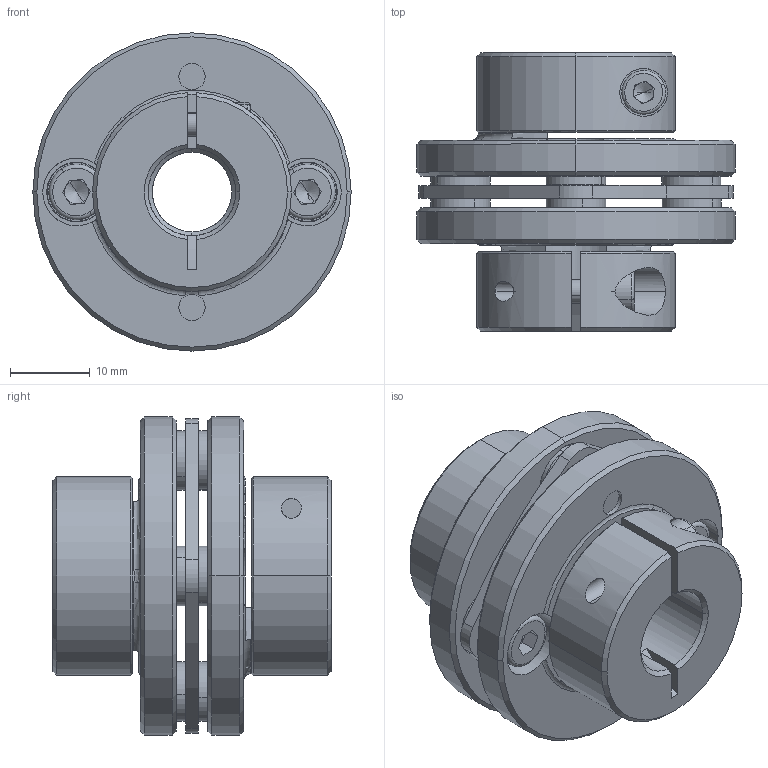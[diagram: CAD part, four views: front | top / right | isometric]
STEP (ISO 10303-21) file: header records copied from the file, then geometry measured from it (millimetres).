
FILE_DESCRIPTION (( 'STEP AP203' ), '1' );
FILE_NAME ('LE1-B-D40L35-10-11.STEP', '2021-11-01T02:10:24', ( '' ), ( '' ), 'SwSTEP 2.0', 'SolidWorks 2018', '' );
FILE_SCHEMA (( 'CONFIG_CONTROL_DESIGN' ));
Length unit declared in the file: millimetre
Products named in the file (1): LE1-B-D40L35-10-11
Bounding box: 40 x 35 x 40 mm (x, y, z)
Volume: 19381.9 mm3; surface area: 12681.1 mm2
Topology: 1 solids, 13 shells, 423 faces, 1021 edges, 630 vertices
Faces by surface type: cylinder 149, plane 140, cone 114, torus 18, bspline 2
Entity records: 12766 total; most frequent: CARTESIAN_POINT 2459, DIRECTION 2335, ORIENTED_EDGE 2018, EDGE_CURVE 1009, AXIS2_PLACEMENT_3D 952, VERTEX_POINT 630, CIRCLE 530, EDGE_LOOP 491
